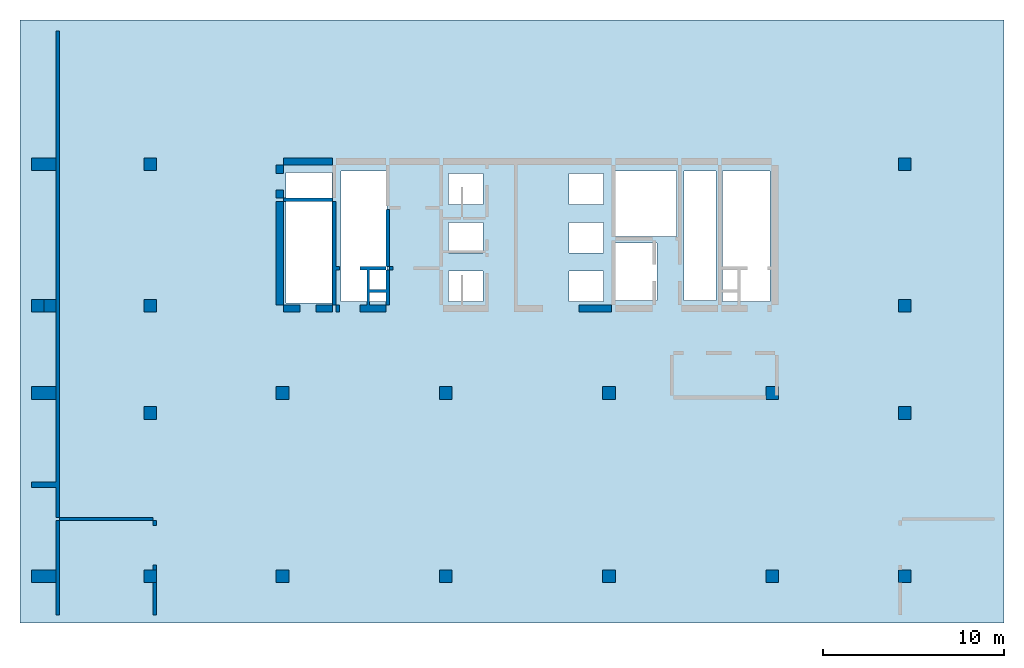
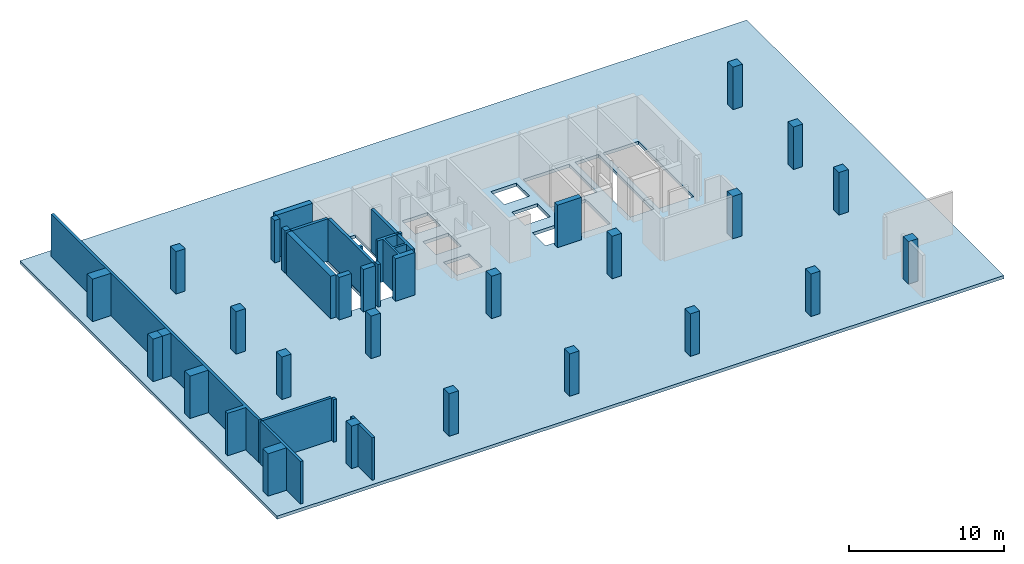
# One storey, part 1 of 2: 21 columns, 19 walls, 1 slab.
"""IFC4 building model written with IfcOpenShell, lengths in millimetres."""

from ifc_helpers import new_model, si_unit, frame, origin, place, context, project, spatial, triangles, element, save


model = new_model("IFC4")

# Units and contexts
model_context = context("Model", 3, precision=0.001, world=origin())
ifc_project = project(units=[si_unit("LENGTHUNIT", "METRE", prefix="MILLI"), si_unit("AREAUNIT", "SQUARE_METRE"), si_unit("VOLUMEUNIT", "CUBIC_METRE")], contexts=[model_context])

# Site, building, storey
site_placement = place(None, origin())
site = spatial("IfcSite", under=ifc_project, at=site_placement, Name="Site", CompositionType="ELEMENT")
building_placement = place(site_placement, origin())
building = spatial("IfcBuilding", under=site, at=building_placement, Name="INNOCEAN", CompositionType="ELEMENT")
storey_placement = place(building_placement, frame((0.0, 0.0, -23400.0)))
storey = spatial("IfcBuildingStorey", under=building, at=storey_placement, Name="B6", CompositionType="ELEMENT", Elevation=-23400.0)

# Columns
column_1_placement = place(storey_placement, origin())
element("IfcColumn", 1, at=column_1_placement, inside=storey, Name="B6_Columns_B6_001", context=model_context, shape_type="Tessellation", body=[
    triangles([(40114.8, 2023.7, 0.0), (40114.8, 2023.7, 3350.0), (40114.8, 2722.3, 0.0), (40114.8, 2722.3, 3350.0), (40813.0, 2023.7, 3350.0), (40813.0, 2023.7, 0.0), (40813.0, 2722.3, 0.0), (40813.0, 2722.3, 3350.0)], [[1, 2, 3], [3, 2, 4], [5, 6, 7], [5, 7, 8], [6, 5, 1], [1, 5, 2], [8, 7, 3], [8, 3, 4], [3, 7, 1], [1, 7, 6], [8, 4, 2], [8, 2, 5]], closed=True),
])
column_2_placement = place(storey_placement, origin())
element("IfcColumn", 2, at=column_2_placement, inside=storey, Name="B6_Columns_B6_002", context=model_context, shape_type="Tessellation", body=[
    triangles([(5843.1, 24721.0, 0.0), (5843.1, 24721.0, 3350.0), (5843.1, 25419.5, 0.0), (5843.1, 25419.5, 3350.0), (6541.2, 24721.0, 3350.0), (6541.2, 24721.0, 0.0), (6541.2, 25419.5, 0.0), (6541.2, 25419.5, 3350.0)], [[1, 2, 3], [3, 2, 4], [5, 6, 7], [5, 7, 8], [6, 5, 1], [1, 5, 2], [8, 7, 3], [8, 3, 4], [1, 3, 6], [3, 7, 6], [4, 2, 5], [8, 4, 5]], closed=True),
])
column_3_placement = place(storey_placement, origin())
element("IfcColumn", 3, at=column_3_placement, inside=storey, Name="B6_Columns_B6_003", context=model_context, shape_type="Tessellation", body=[
    triangles([(5843.1, 16922.4, 0.0), (5843.1, 16922.4, 3350.0), (5843.1, 17620.9, 0.0), (5843.1, 17620.9, 3350.0), (6541.2, 16922.4, 3350.0), (6541.2, 16922.4, 0.0), (6541.2, 17620.9, 0.0), (6541.2, 17620.9, 3350.0)], [[1, 2, 3], [3, 2, 4], [5, 6, 7], [5, 7, 8], [6, 5, 1], [1, 5, 2], [8, 7, 3], [8, 3, 4], [1, 3, 6], [3, 7, 6], [4, 2, 5], [8, 4, 5]], closed=True),
])
column_4_placement = place(storey_placement, origin())
element("IfcColumn", 4, at=column_4_placement, inside=storey, Name="B6_Columns_B6_004", context=model_context, shape_type="Tessellation", body=[
    triangles([(47413.4, 24721.0, 0.0), (47413.4, 24721.0, 3350.0), (47413.4, 25419.5, 0.0), (47413.4, 25419.5, 3350.0), (48111.6, 24721.0, 3350.0), (48111.6, 24721.0, 0.0), (48111.6, 25419.5, 0.0), (48111.6, 25419.5, 3350.0)], [[1, 2, 3], [3, 2, 4], [5, 6, 7], [5, 7, 8], [6, 5, 1], [1, 5, 2], [8, 7, 3], [8, 3, 4], [1, 3, 6], [3, 7, 6], [4, 2, 5], [8, 4, 5]], closed=True),
])
column_5_placement = place(storey_placement, origin())
element("IfcColumn", 5, at=column_5_placement, inside=storey, Name="B6_Columns_B6_005", context=model_context, shape_type="Tessellation", body=[
    triangles([(47413.4, 16922.4, 0.0), (47413.4, 16922.4, 3350.0), (47413.4, 17620.9, 0.0), (47413.4, 17620.9, 3350.0), (48111.6, 16922.4, 3350.0), (48111.6, 16922.4, 0.0), (48111.6, 17620.9, 0.0), (48111.6, 17620.9, 3350.0)], [[1, 2, 3], [3, 2, 4], [5, 6, 7], [5, 7, 8], [6, 5, 1], [1, 5, 2], [8, 7, 3], [8, 3, 4], [1, 3, 6], [3, 7, 6], [4, 2, 5], [8, 4, 5]], closed=True),
])
column_6_placement = place(storey_placement, origin())
element("IfcColumn", 6, at=column_6_placement, inside=storey, Name="B6_Columns_B6_006", context=model_context, shape_type="Tessellation", body=[
    triangles([(13129.0, 2023.7, 0.0), (13129.0, 2023.7, 3350.0), (13129.0, 2722.3, 0.0), (13129.0, 2722.3, 3350.0), (13827.2, 2023.7, 3350.0), (13827.2, 2023.7, 0.0), (13827.2, 2722.3, 0.0), (13827.2, 2722.3, 3350.0)], [[1, 2, 3], [3, 2, 4], [5, 6, 7], [5, 7, 8], [6, 5, 1], [1, 5, 2], [8, 7, 3], [8, 3, 4], [3, 7, 1], [1, 7, 6], [8, 4, 2], [8, 2, 5]], closed=True),
])
column_7_placement = place(storey_placement, origin())
element("IfcColumn", 7, at=column_7_placement, inside=storey, Name="B6_Columns_B6_007", context=model_context, shape_type="Tessellation", body=[
    triangles([(47413.4, 2023.7, 0.0), (47413.4, 2023.7, 3350.0), (47413.4, 2722.3, 0.0), (47413.4, 2722.3, 3350.0), (48111.6, 2023.7, 3350.0), (48111.6, 2023.7, 0.0), (48111.6, 2722.3, 0.0), (48111.6, 2722.3, 3350.0)], [[1, 2, 3], [3, 2, 4], [5, 6, 7], [5, 7, 8], [6, 5, 1], [1, 5, 2], [8, 7, 3], [8, 3, 4], [3, 7, 1], [1, 7, 6], [8, 4, 2], [8, 2, 5]], closed=True),
])
column_8_placement = place(storey_placement, origin())
element("IfcColumn", 8, at=column_8_placement, inside=storey, Name="B6_Columns_B6_008", context=model_context, shape_type="Tessellation", body=[
    triangles([(13129.0, 12121.3, 0.0), (13129.0, 12121.3, 3350.0), (13129.0, 12819.8, 0.0), (13129.0, 12819.8, 3350.0), (13827.2, 12121.3, 3350.0), (13827.2, 12121.3, 0.0), (13827.2, 12819.8, 0.0), (13827.2, 12819.8, 3350.0)], [[1, 2, 3], [3, 2, 4], [5, 6, 7], [5, 7, 8], [6, 5, 1], [1, 5, 2], [8, 7, 3], [8, 3, 4], [3, 7, 1], [1, 7, 6], [8, 4, 2], [8, 2, 5]], closed=True),
])
column_9_placement = place(storey_placement, origin())
element("IfcColumn", 9, at=column_9_placement, inside=storey, Name="B6_Columns_B6_009", context=model_context, shape_type="Tessellation", body=[
    triangles([(5843.1, 11016.3, 0.0), (5843.1, 11016.3, 3350.0), (5843.1, 11727.5, 0.0), (5843.1, 11727.5, 3350.0), (6541.2, 11016.3, 3350.0), (6541.2, 11016.3, 0.0), (6541.2, 11727.5, 0.0), (6541.2, 11727.5, 3350.0)], [[1, 2, 3], [3, 2, 4], [5, 6, 7], [5, 7, 8], [6, 5, 1], [1, 5, 2], [8, 7, 3], [8, 3, 4], [3, 7, 1], [1, 7, 6], [8, 4, 2], [8, 2, 5]], closed=True),
])
column_10_placement = place(storey_placement, origin())
element("IfcColumn", 10, at=column_10_placement, inside=storey, Name="B6_Columns_B6_010", context=model_context, shape_type="Tessellation", body=[
    triangles([(40114.8, 12121.3, 0.0), (40114.8, 12121.3, 3350.0), (40114.8, 12819.8, 0.0), (40114.8, 12819.8, 3350.0), (40813.0, 12121.3, 3350.0), (40813.0, 12121.3, 0.0), (40813.0, 12819.8, 0.0), (40813.0, 12819.8, 3350.0)], [[1, 2, 3], [3, 2, 4], [5, 6, 7], [5, 7, 8], [6, 5, 1], [1, 5, 2], [8, 7, 3], [8, 3, 4], [1, 3, 6], [3, 7, 6], [4, 2, 5], [8, 4, 5]], closed=True),
])
column_11_placement = place(storey_placement, origin())
element("IfcColumn", 11, at=column_11_placement, inside=storey, Name="B6_Columns_B6_011", context=model_context, shape_type="Tessellation", body=[
    triangles([(5843.1, 2023.7, 0.0), (5843.1, 2023.7, 3350.0), (5843.1, 2722.3, 0.0), (5843.1, 2722.3, 3350.0), (6541.2, 2023.7, 3350.0), (6541.2, 2023.7, 0.0), (6541.2, 2722.3, 0.0), (6541.2, 2722.3, 3350.0)], [[1, 2, 3], [3, 2, 4], [5, 6, 7], [5, 7, 8], [6, 5, 1], [1, 5, 2], [8, 7, 3], [8, 3, 4], [1, 3, 6], [3, 7, 6], [4, 2, 5], [8, 4, 5]], closed=True),
])
column_12_placement = place(storey_placement, origin())
element("IfcColumn", 12, at=column_12_placement, inside=storey, Name="B6_Columns_B6_012", context=model_context, shape_type="Tessellation", body=[
    triangles([(-363.9, 2023.7, 0.0), (-363.9, 2023.7, 3350.0), (-363.9, 2722.3, 0.0), (-363.9, 2722.3, 3350.0), (994.3, 2023.7, 3350.0), (994.3, 2023.7, 0.0), (994.3, 2722.3, 0.0), (994.3, 2722.3, 3350.0)], [[1, 2, 3], [3, 2, 4], [5, 6, 7], [5, 7, 8], [6, 5, 1], [1, 5, 2], [8, 7, 3], [8, 3, 4], [3, 7, 1], [1, 7, 6], [8, 4, 2], [8, 2, 5]], closed=True),
])
column_13_placement = place(storey_placement, origin())
element("IfcColumn", 13, at=column_13_placement, inside=storey, Name="B6_Columns_B6_013", context=model_context, shape_type="Tessellation", body=[
    triangles([(-363.9, 24721.0, 0.0), (-363.9, 24721.0, 3350.0), (-363.9, 25419.5, 0.0), (-363.9, 25419.5, 3350.0), (994.3, 24721.0, 3350.0), (994.3, 24721.0, 0.0), (994.3, 25419.5, 0.0), (994.3, 25419.5, 3350.0)], [[1, 2, 3], [3, 2, 4], [5, 6, 7], [5, 7, 8], [6, 5, 1], [1, 5, 2], [8, 7, 3], [8, 3, 4], [3, 7, 1], [1, 7, 6], [8, 4, 2], [8, 2, 5]], closed=True),
])
column_14_placement = place(storey_placement, origin())
element("IfcColumn", 14, at=column_14_placement, inside=storey, Name="B6_Columns_B6_014", context=model_context, shape_type="Tessellation", body=[
    triangles([(-363.9, 12121.3, 0.0), (-363.9, 12121.3, 3350.0), (-363.9, 12819.8, 0.0), (-363.9, 12819.8, 3350.0), (994.3, 12121.3, 3350.0), (994.3, 12121.3, 0.0), (994.3, 12819.8, 0.0), (994.3, 12819.8, 3350.0)], [[1, 2, 3], [3, 2, 4], [5, 6, 7], [5, 7, 8], [6, 5, 1], [1, 5, 2], [8, 7, 3], [8, 3, 4], [3, 7, 1], [1, 7, 6], [8, 4, 2], [8, 2, 5]], closed=True),
])
column_15_placement = place(storey_placement, origin())
element("IfcColumn", 15, at=column_15_placement, inside=storey, Name="B6_Columns_B6_015", context=model_context, shape_type="Tessellation", body=[
    triangles([(31128.0, 12121.3, 0.0), (31128.0, 12121.3, 3350.0), (31128.0, 12819.8, 0.0), (31128.0, 12819.8, 3350.0), (31826.2, 12121.3, 3350.0), (31826.2, 12121.3, 0.0), (31826.2, 12819.8, 0.0), (31826.2, 12819.8, 3350.0)], [[1, 2, 3], [3, 2, 4], [5, 6, 7], [5, 7, 8], [6, 5, 1], [1, 5, 2], [8, 7, 3], [8, 3, 4], [3, 7, 1], [1, 7, 6], [8, 4, 2], [8, 2, 5]], closed=True),
])
column_16_placement = place(storey_placement, origin())
element("IfcColumn", 16, at=column_16_placement, inside=storey, Name="B6_Columns_B6_016", context=model_context, shape_type="Tessellation", body=[
    triangles([(22128.5, 12121.3, 0.0), (22128.5, 12121.3, 3350.0), (22128.5, 12819.8, 0.0), (22128.5, 12819.8, 3350.0), (22826.7, 12121.3, 3350.0), (22826.7, 12121.3, 0.0), (22826.7, 12819.8, 0.0), (22826.7, 12819.8, 3350.0)], [[1, 2, 3], [3, 2, 4], [5, 6, 7], [5, 7, 8], [6, 5, 1], [1, 5, 2], [8, 7, 3], [8, 3, 4], [3, 7, 1], [1, 7, 6], [8, 4, 2], [8, 2, 5]], closed=True),
])
column_17_placement = place(storey_placement, origin())
element("IfcColumn", 17, at=column_17_placement, inside=storey, Name="B6_Columns_B6_017", context=model_context, shape_type="Tessellation", body=[
    triangles([(31128.0, 2023.7, 0.0), (31128.0, 2023.7, 3350.0), (31128.0, 2722.3, 0.0), (31128.0, 2722.3, 3350.0), (31826.2, 2023.7, 3350.0), (31826.2, 2023.7, 0.0), (31826.2, 2722.3, 0.0), (31826.2, 2722.3, 3350.0)], [[1, 2, 3], [3, 2, 4], [5, 6, 7], [5, 7, 8], [6, 5, 1], [1, 5, 2], [8, 7, 3], [8, 3, 4], [3, 7, 1], [1, 7, 6], [8, 4, 2], [8, 2, 5]], closed=True),
])
column_18_placement = place(storey_placement, origin())
element("IfcColumn", 18, at=column_18_placement, inside=storey, Name="B6_Columns_B6_018", context=model_context, shape_type="Tessellation", body=[
    triangles([(22128.5, 2023.7, 0.0), (22128.5, 2023.7, 3350.0), (22128.5, 2722.3, 0.0), (22128.5, 2722.3, 3350.0), (22826.7, 2023.7, 3350.0), (22826.7, 2023.7, 0.0), (22826.7, 2722.3, 0.0), (22826.7, 2722.3, 3350.0)], [[1, 2, 3], [3, 2, 4], [5, 6, 7], [5, 7, 8], [6, 5, 1], [1, 5, 2], [8, 7, 3], [8, 3, 4], [3, 7, 1], [1, 7, 6], [8, 4, 2], [8, 2, 5]], closed=True),
])
column_19_placement = place(storey_placement, origin())
element("IfcColumn", 19, at=column_19_placement, inside=storey, Name="B6_Columns_B6_019", context=model_context, shape_type="Tessellation", body=[
    triangles([(47413.4, 11016.3, 0.0), (47413.4, 11016.3, 3350.0), (47413.4, 11727.5, 0.0), (47413.4, 11727.5, 3350.0), (48111.6, 11016.3, 3350.0), (48111.6, 11016.3, 0.0), (48111.6, 11727.5, 0.0), (48111.6, 11727.5, 3350.0)], [[1, 2, 3], [3, 2, 4], [5, 6, 7], [5, 7, 8], [6, 5, 1], [1, 5, 2], [8, 7, 3], [8, 3, 4], [3, 7, 1], [1, 7, 6], [8, 4, 2], [8, 2, 5]], closed=True),
])
column_20_placement = place(storey_placement, origin())
element("IfcColumn", 20, at=column_20_placement, inside=storey, Name="B6_Columns_B6_020", context=model_context, shape_type="Tessellation", body=[
    triangles([(-363.9, 16922.4, 0.0), (-363.9, 16922.4, 3350.0), (-363.9, 17620.9, 0.0), (-363.9, 17620.9, 3350.0), (334.3, 16922.4, 3350.0), (334.3, 16922.4, 0.0), (334.3, 17620.9, 0.0), (334.3, 17620.9, 3350.0)], [[1, 2, 3], [3, 2, 4], [5, 6, 7], [5, 7, 8], [6, 5, 1], [1, 5, 2], [8, 7, 3], [8, 3, 4], [3, 7, 1], [1, 7, 6], [8, 4, 2], [8, 2, 5]], closed=True),
])
column_21_placement = place(storey_placement, origin())
element("IfcColumn", 21, at=column_21_placement, inside=storey, Name="B6_Columns_B6_021", context=model_context, shape_type="Tessellation", body=[
    triangles([(-363.9, 16922.4, 0.0), (-363.9, 16922.4, 3350.0), (-363.9, 17620.9, 0.0), (-363.9, 17620.9, 3350.0), (994.3, 16922.4, 3350.0), (994.3, 16922.4, 0.0), (994.3, 17620.9, 0.0), (994.3, 17620.9, 3350.0)], [[1, 2, 3], [3, 2, 4], [5, 6, 7], [5, 7, 8], [6, 5, 1], [1, 5, 2], [8, 7, 3], [8, 3, 4], [3, 7, 1], [1, 7, 6], [8, 4, 2], [8, 2, 5]], closed=True),
])

# Slab
slab_placement = place(storey_placement, origin())
element("IfcSlab", 22, at=slab_placement, inside=storey, Name="B6_Slab_B6_001", context=model_context, shape_type="Tessellation", body=[
    triangles([(-987.250996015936, 33023.3766233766, 0.0), (53241.0358565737, 33023.3766233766, 0.0), (-987.250996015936, 33023.3766233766, -250.0), (53241.0358565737, 33023.3766233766, -250.0), (-987.250996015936, -211.688311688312, 0.0), (-987.250996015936, -211.688311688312, -250.0), (53241.0358565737, -211.688311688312, 0.0), (53241.0358565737, -211.688311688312, -250.0), (34130.6772908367, 20745.4545454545, -250.0), (31733.0677290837, 20745.4545454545, 0.0), (31733.0677290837, 20745.4545454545, -250.0), (34130.6772908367, 20745.4545454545, 0.0), (31733.0677290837, 17570.1298701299, 0.0), (31733.0677290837, 17570.1298701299, -250.0), (34130.6772908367, 17570.1298701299, 0.0), (34130.6772908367, 17570.1298701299, -250.0), (31168.9243027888, 19193.0735930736, 0.0), (29264.9402390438, 19193.0735930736, 0.0), (29264.9402390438, 19193.0735930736, -250.0), (31168.9243027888, 19193.0735930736, -250.0), (31168.9243027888, 17499.5670995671, 0.0), (31168.9243027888, 17499.5670995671, -250.0), (29264.9402390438, 17499.5670995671, 0.0), (29264.9402390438, 17499.5670995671, -250.0), (31168.9243027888, 21874.4588744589, 0.0), (29264.9402390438, 21874.4588744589, 0.0), (29264.9402390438, 21874.4588744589, -250.0), (31168.9243027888, 21874.4588744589, -250.0), (29264.9402390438, 20180.9523809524, 0.0), (29264.9402390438, 20180.9523809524, -250.0), (31168.9243027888, 20180.9523809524, 0.0), (31168.9243027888, 20180.9523809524, -250.0), (24540.2390438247, 19193.0735930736, -250.0), (22636.2549800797, 19193.0735930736, 0.0), (22636.2549800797, 19193.0735930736, -250.0), (24540.2390438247, 19193.0735930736, 0.0), (22636.2549800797, 17499.5670995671, 0.0), (22636.2549800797, 17499.5670995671, -250.0), (24540.2390438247, 17499.5670995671, 0.0), (24540.2390438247, 17499.5670995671, -250.0), (24540.2390438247, 21874.4588744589, -250.0), (22636.2549800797, 21874.4588744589, 0.0), (22636.2549800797, 21874.4588744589, -250.0), (24540.2390438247, 21874.4588744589, 0.0), (22636.2549800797, 20180.9523809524, 0.0), (22636.2549800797, 20180.9523809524, -250.0), (24540.2390438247, 20180.9523809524, 0.0), (24540.2390438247, 20180.9523809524, -250.0), (16219.1235059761, 24626.4069264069, 0.0), (13680.4780876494, 24626.4069264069, 0.0), (13680.4780876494, 24626.4069264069, -250.0), (16219.1235059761, 24626.4069264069, -250.0), (13680.4780876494, 17429.0043290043, 0.0), (13680.4780876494, 17429.0043290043, -250.0), (16219.1235059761, 17429.0043290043, 0.0), (16219.1235059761, 17429.0043290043, -250.0), (40336.2549800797, 24696.9696969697, -250.0), (37727.0916334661, 24696.9696969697, 0.0), (37727.0916334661, 24696.9696969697, -250.0), (40336.2549800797, 24696.9696969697, 0.0), (37727.0916334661, 17499.5670995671, 0.0), (37727.0916334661, 17499.5670995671, -250.0), (40336.2549800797, 17499.5670995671, 0.0), (40336.2549800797, 17499.5670995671, -250.0), (37374.5019920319, 24696.9696969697, 0.0), (35611.5537848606, 24696.9696969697, 0.0), (35611.5537848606, 24696.9696969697, -250.0), (37374.5019920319, 24696.9696969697, -250.0), (35611.5537848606, 17570.1298701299, 0.0), (35611.5537848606, 17570.1298701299, -250.0), (37374.5019920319, 17570.1298701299, 0.0), (37374.5019920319, 17570.1298701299, -250.0), (35188.4462151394, 24696.9696969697, 0.0), (31733.0677290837, 24696.9696969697, 0.0), (31733.0677290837, 24696.9696969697, -250.0), (35188.4462151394, 24696.9696969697, -250.0), (31733.0677290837, 21098.2683982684, 0.0), (31733.0677290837, 21098.2683982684, -250.0), (35188.4462151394, 21098.2683982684, 0.0), (35188.4462151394, 21098.2683982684, -250.0), (31168.9243027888, 24555.8441558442, 0.0), (29264.9402390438, 24555.8441558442, 0.0), (29264.9402390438, 24555.8441558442, -250.0), (31168.9243027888, 24555.8441558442, -250.0), (29264.9402390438, 22862.3376623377, 0.0), (29264.9402390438, 22862.3376623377, -250.0), (31168.9243027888, 22862.3376623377, 0.0), (31168.9243027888, 22862.3376623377, -250.0), (19251.3944223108, 24696.9696969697, 0.0), (16712.7490039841, 24696.9696969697, 0.0), (16712.7490039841, 24696.9696969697, -250.0), (19251.3944223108, 24696.9696969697, -250.0), (16712.7490039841, 17499.5670995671, 0.0), (16712.7490039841, 17499.5670995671, -250.0), (19251.3944223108, 17499.5670995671, 0.0), (19251.3944223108, 17499.5670995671, -250.0), (24540.2390438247, 24555.8441558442, -250.0), (22636.2549800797, 24555.8441558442, 0.0), (22636.2549800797, 24555.8441558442, -250.0), (24540.2390438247, 24555.8441558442, 0.0), (22636.2549800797, 22862.3376623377, 0.0), (22636.2549800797, 22862.3376623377, -250.0), (24540.2390438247, 22862.3376623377, 0.0), (24540.2390438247, 22862.3376623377, -250.0)], [[1, 2, 3], [3, 2, 4], [5, 1, 6], [6, 1, 3], [2, 7, 4], [4, 7, 8], [7, 5, 8], [8, 5, 6], [9, 10, 11], [12, 10, 9], [10, 13, 14], [10, 14, 11], [15, 12, 9], [15, 9, 16], [14, 15, 16], [13, 15, 14], [17, 18, 19], [17, 19, 20], [21, 17, 20], [21, 20, 22], [23, 21, 22], [23, 22, 24], [18, 23, 24], [18, 24, 19], [25, 26, 27], [25, 27, 28], [26, 29, 30], [26, 30, 27], [31, 25, 28], [31, 28, 32], [29, 31, 32], [29, 32, 30], [33, 34, 35], [36, 34, 33], [34, 37, 38], [34, 38, 35], [39, 36, 33], [39, 33, 40], [38, 39, 40], [37, 39, 38], [41, 42, 43], [44, 42, 41], [42, 45, 46], [42, 46, 43], [47, 44, 41], [47, 41, 48], [46, 47, 48], [45, 47, 46], [49, 50, 51], [49, 51, 52], [50, 53, 54], [50, 54, 51], [55, 49, 52], [55, 52, 56], [53, 55, 56], [53, 56, 54], [57, 58, 59], [60, 58, 57], [58, 61, 62], [58, 62, 59], [63, 60, 57], [63, 57, 64], [62, 63, 64], [61, 63, 62], [65, 66, 67], [65, 67, 68], [66, 69, 70], [66, 70, 67], [71, 65, 68], [71, 68, 72], [69, 71, 72], [69, 72, 70], [73, 74, 75], [73, 75, 76], [74, 77, 78], [74, 78, 75], [79, 73, 76], [79, 76, 80], [77, 79, 80], [77, 80, 78], [81, 82, 83], [81, 83, 84], [82, 85, 86], [82, 86, 83], [87, 81, 84], [87, 84, 88], [85, 87, 88], [85, 88, 86], [89, 90, 91], [89, 91, 92], [90, 93, 94], [90, 94, 91], [95, 89, 92], [95, 92, 96], [93, 95, 96], [93, 96, 94], [97, 98, 99], [100, 98, 97], [98, 101, 102], [98, 102, 99], [103, 100, 97], [103, 97, 104], [102, 103, 104], [101, 103, 102], [63, 61, 7], [7, 2, 63], [71, 69, 61], [61, 69, 7], [69, 15, 7], [2, 60, 63], [13, 21, 15], [15, 21, 7], [79, 12, 69], [69, 12, 15], [2, 58, 60], [2, 65, 58], [13, 17, 21], [21, 23, 7], [17, 10, 31], [2, 66, 65], [12, 77, 10], [10, 77, 31], [2, 73, 66], [66, 73, 79], [31, 18, 17], [77, 25, 31], [31, 29, 18], [77, 87, 25], [23, 39, 7], [2, 74, 73], [74, 81, 87], [87, 85, 25], [25, 85, 26], [23, 36, 39], [18, 36, 23], [74, 82, 81], [29, 47, 18], [18, 47, 36], [26, 44, 29], [29, 44, 47], [47, 45, 36], [36, 45, 34], [34, 95, 37], [45, 95, 34], [85, 103, 26], [26, 103, 44], [82, 103, 85], [45, 42, 95], [103, 42, 44], [82, 100, 103], [103, 101, 42], [39, 5, 7], [37, 5, 39], [95, 5, 37], [95, 55, 5], [93, 55, 95], [55, 53, 5], [101, 89, 42], [42, 89, 95], [98, 89, 101], [90, 49, 93], [93, 49, 55], [90, 50, 49], [50, 1, 53], [89, 1, 90], [53, 1, 5], [90, 1, 50], [2, 1, 74], [74, 1, 82], [82, 1, 100], [100, 1, 98], [98, 1, 89], [13, 10, 17], [69, 66, 79], [65, 71, 58], [58, 71, 61], [77, 74, 87], [79, 77, 12], [62, 64, 8], [4, 8, 64], [70, 72, 62], [70, 62, 8], [16, 70, 8], [57, 4, 64], [22, 14, 16], [22, 16, 8], [9, 80, 70], [9, 70, 16], [59, 4, 57], [68, 4, 59], [20, 14, 22], [24, 22, 8], [11, 20, 32], [67, 4, 68], [78, 9, 11], [78, 11, 32], [76, 4, 67], [76, 67, 80], [19, 32, 20], [28, 78, 32], [30, 32, 19], [88, 78, 28], [40, 24, 8], [75, 4, 76], [84, 75, 88], [86, 88, 28], [86, 28, 27], [33, 24, 40], [33, 19, 24], [83, 75, 84], [48, 30, 19], [48, 19, 33], [41, 27, 30], [41, 30, 48], [46, 48, 33], [46, 33, 35], [96, 35, 38], [96, 46, 35], [104, 86, 27], [104, 27, 41], [104, 83, 86], [43, 46, 96], [43, 104, 41], [97, 83, 104], [102, 104, 43], [6, 40, 8], [6, 38, 40], [6, 96, 38], [56, 96, 6], [56, 94, 96], [54, 56, 6], [92, 102, 43], [92, 43, 96], [92, 99, 102], [52, 91, 94], [52, 94, 56], [51, 91, 52], [3, 51, 54], [3, 92, 91], [3, 54, 6], [3, 91, 51], [3, 4, 75], [3, 75, 83], [3, 83, 97], [3, 97, 99], [3, 99, 92], [11, 14, 20], [67, 70, 80], [72, 68, 59], [72, 59, 62], [75, 78, 88], [78, 80, 9]], closed=True),
])

# Walls
wall_1_placement = place(storey_placement, origin())
element("IfcWall", 23, at=wall_1_placement, inside=storey, Name="B6_Walls_B6_001", context=model_context, shape_type="Tessellation", body=[
    triangles([(6541.2, 2023.7, 0.0), (6338.1, 2023.7, 0.0), (6338.1, 2023.7, 3350.0), (6541.2, 2023.7, 3350.0), (6541.2, 220.2, 0.0), (6541.2, 220.2, 3350.0), (6338.1, 220.2, 0.0), (6338.1, 220.2, 3350.0)], [[1, 2, 3], [1, 3, 4], [5, 1, 4], [5, 4, 6], [7, 5, 6], [7, 6, 8], [2, 7, 8], [2, 8, 3], [2, 1, 5], [2, 5, 7], [4, 3, 6], [6, 3, 8]], closed=True),
])
wall_2_placement = place(storey_placement, origin())
element("IfcWall", 24, at=wall_2_placement, inside=storey, Name="B6_Walls_B6_002", context=model_context, shape_type="Tessellation", body=[
    triangles([(1184.7, 220.2, 0.0), (1184.7, 5427.7, 0.0), (1184.7, 5427.7, 3350.0), (1184.7, 220.2, 3350.0), (994.3, 220.2, 0.0), (994.3, 220.2, 3350.0), (994.3, 5427.7, 0.0), (994.3, 5427.7, 3350.0)], [[1, 2, 3], [1, 3, 4], [5, 1, 4], [5, 4, 6], [7, 5, 6], [7, 6, 8], [2, 7, 8], [2, 8, 3], [7, 2, 1], [7, 1, 5], [3, 8, 4], [4, 8, 6]], closed=True),
])
wall_3_placement = place(storey_placement, origin())
element("IfcWall", 25, at=wall_3_placement, inside=storey, Name="B6_Walls_B6_003", context=model_context, shape_type="Tessellation", body=[
    triangles([(6541.2, 2722.3, 0.0), (6541.2, 2976.3, 0.0), (6541.2, 2976.3, 3350.0), (6541.2, 2722.3, 3350.0), (6338.1, 2722.3, 0.0), (6338.1, 2722.3, 3350.0), (6338.1, 2976.3, 0.0), (6338.1, 2976.3, 3350.0)], [[1, 2, 3], [1, 3, 4], [5, 1, 4], [5, 4, 6], [7, 5, 6], [7, 6, 8], [2, 7, 8], [2, 8, 3], [2, 1, 5], [7, 2, 5], [4, 3, 6], [3, 8, 6]], closed=True),
])
wall_4_placement = place(storey_placement, origin())
element("IfcWall", 26, at=wall_4_placement, inside=storey, Name="B6_Walls_B6_004", context=model_context, shape_type="Tessellation", body=[
    triangles([(6338.1, 5173.7, 0.0), (6541.2, 5173.7, 0.0), (6541.2, 5173.7, 3350.0), (6338.1, 5173.7, 3350.0), (6338.1, 5427.7, 0.0), (6338.1, 5427.7, 3350.0), (6541.2, 5427.7, 0.0), (6541.2, 5427.7, 3350.0)], [[1, 2, 3], [1, 3, 4], [5, 1, 4], [5, 4, 6], [7, 5, 6], [7, 6, 8], [2, 7, 8], [2, 8, 3], [7, 2, 1], [5, 7, 1], [3, 8, 4], [8, 6, 4]], closed=True),
])
wall_5_placement = place(storey_placement, origin())
element("IfcWall", 27, at=wall_5_placement, inside=storey, Name="B6_Walls_B6_005", context=model_context, shape_type="Tessellation", body=[
    triangles([(6338.1, 5427.7, 0.0), (6338.1, 5618.2, 0.0), (6338.1, 5618.2, 3350.0), (6338.1, 5427.7, 3350.0), (1184.7, 5427.7, 0.0), (1184.7, 5427.7, 3350.0), (1184.7, 5618.2, 0.0), (1184.7, 5618.2, 3350.0)], [[1, 2, 3], [1, 3, 4], [5, 1, 4], [5, 4, 6], [7, 5, 6], [7, 6, 8], [2, 7, 8], [2, 8, 3], [7, 2, 1], [7, 1, 5], [3, 8, 4], [4, 8, 6]], closed=True),
])
wall_6_placement = place(storey_placement, origin())
element("IfcWall", 28, at=wall_6_placement, inside=storey, Name="B6_Walls_B6_006", context=model_context, shape_type="Tessellation", body=[
    triangles([(-365.0, 7575.0, 0.0), (-365.0, 7270.0, 0.0), (-365.0, 7270.0, 3350.0), (-365.0, 7575.0, 3350.0), (994.3, 7575.0, 0.0), (994.3, 7575.0, 3350.0), (994.3, 32417.9, 0.0), (994.3, 32417.9, 3350.0), (1184.7, 32417.9, 0.0), (1184.7, 32417.9, 3350.0), (1184.7, 5618.2, 0.0), (1184.7, 5618.2, 3350.0), (994.3, 5618.2, 0.0), (994.3, 5618.2, 3350.0), (994.3, 7269.4, 0.0), (994.3, 7269.4, 3350.0), (-363.9, 7269.4, 0.0), (-363.9, 7269.4, 3350.0), (-363.9, 7270.0, 0.0), (-363.9, 7270.0, 3350.0)], [[1, 2, 3], [1, 3, 4], [5, 1, 4], [5, 4, 6], [7, 5, 6], [7, 6, 8], [9, 7, 8], [9, 8, 10], [11, 9, 10], [11, 10, 12], [13, 11, 12], [13, 12, 14], [15, 13, 14], [15, 14, 16], [17, 15, 16], [17, 16, 18], [19, 17, 18], [19, 18, 20], [2, 19, 20], [2, 20, 3], [15, 11, 13], [5, 11, 15], [19, 15, 17], [19, 5, 15], [1, 19, 2], [1, 5, 19], [7, 9, 5], [9, 11, 5], [12, 16, 14], [12, 6, 16], [16, 20, 18], [6, 20, 16], [20, 4, 3], [6, 4, 20], [10, 8, 6], [12, 10, 6]], closed=True),
])
wall_7_placement = place(storey_placement, origin())
element("IfcWall", 29, at=wall_7_placement, inside=storey, Name="B6_Walls_B6_007", context=model_context, shape_type="Tessellation", body=[
    triangles([(14436.4, 16922.4, 0.0), (14436.4, 17316.1, 0.0), (14436.4, 17316.1, 3350.0), (14436.4, 16922.4, 3350.0), (13535.2, 16922.4, 0.0), (13535.2, 16922.4, 3350.0), (13535.2, 17316.1, 0.0), (13535.2, 17316.1, 3350.0)], [[1, 2, 3], [1, 3, 4], [5, 1, 4], [5, 4, 6], [7, 5, 6], [7, 6, 8], [2, 7, 8], [2, 8, 3], [7, 2, 1], [7, 1, 5], [3, 8, 4], [4, 8, 6]], closed=True),
])
wall_8_placement = place(storey_placement, origin())
element("IfcWall", 30, at=wall_8_placement, inside=storey, Name="B6_Walls_B6_008", context=model_context, shape_type="Tessellation", body=[
    triangles([(16226.2, 16922.4, 0.0), (16226.2, 17316.1, 0.0), (16226.2, 17316.1, 3350.0), (16226.2, 16922.4, 3350.0), (15337.6, 16922.4, 0.0), (15337.6, 16922.4, 3350.0), (15337.6, 17316.1, 0.0), (15337.6, 17316.1, 3350.0)], [[1, 2, 3], [1, 3, 4], [5, 1, 4], [5, 4, 6], [7, 5, 6], [7, 6, 8], [2, 7, 8], [2, 8, 3], [7, 2, 1], [7, 1, 5], [3, 8, 4], [4, 8, 6]], closed=True),
])
wall_9_placement = place(storey_placement, origin())
element("IfcWall", 31, at=wall_9_placement, inside=storey, Name="B6_Walls_B6_009", context=model_context, shape_type="Tessellation", body=[
    triangles([(16632.4, 16922.4, 0.0), (16632.4, 17316.1, 0.0), (16632.4, 17316.1, 3350.0), (16632.4, 16922.4, 3350.0), (16429.3, 16922.4, 0.0), (16429.3, 16922.4, 3350.0), (16429.3, 17316.1, 0.0), (16429.3, 17316.1, 3350.0)], [[1, 2, 3], [1, 3, 4], [5, 1, 4], [5, 4, 6], [7, 5, 6], [7, 6, 8], [2, 7, 8], [2, 8, 3], [7, 2, 1], [7, 1, 5], [3, 8, 4], [4, 8, 6]], closed=True),
])
wall_10_placement = place(storey_placement, origin())
element("IfcWall", 32, at=wall_10_placement, inside=storey, Name="B6_Walls_B6_010", context=model_context, shape_type="Tessellation", body=[
    triangles([(18130.2, 19246.7, 0.0), (18130.2, 19245.0, 0.0), (18130.2, 19245.0, 3350.0), (18130.2, 19246.7, 3350.0), (18130.0, 19245.0, 0.0), (18130.0, 19245.0, 3350.0), (18130.0, 17316.1, 0.0), (18130.0, 17316.1, 3350.0), (17749.4, 17316.1, 0.0), (17749.4, 17316.1, 3350.0), (17749.4, 16922.4, 0.0), (17749.4, 16922.4, 3350.0), (19183.7, 16922.4, 0.0), (19183.7, 16922.4, 3350.0), (19183.7, 17316.1, 0.0), (19183.7, 17316.1, 3350.0), (19374.1, 17316.1, 0.0), (19374.1, 17316.1, 3350.0), (19374.1, 19246.7, 0.0), (19374.1, 19246.7, 3350.0), (19183.7, 19246.7, 0.0), (19183.7, 19246.7, 3350.0), (19183.7, 19449.9, 0.0), (19183.7, 19449.9, 3350.0), (17749.4, 19449.9, 0.0), (17749.4, 19449.9, 3350.0), (17749.4, 19246.7, 0.0), (17749.4, 19246.7, 3350.0), (18282.5, 17316.1, 0.0), (18282.5, 17316.1, 3350.0), (18282.5, 18014.7, 0.0), (18282.5, 18014.7, 3350.0), (19183.7, 18014.7, 0.0), (19183.7, 18014.7, 3350.0), (19183.7, 18167.1, 0.0), (19183.7, 18167.1, 3350.0), (18282.5, 18167.1, 0.0), (18282.5, 18167.1, 3350.0), (18282.5, 19246.7, 0.0), (18282.5, 19246.7, 3350.0)], [[1, 2, 3], [1, 3, 4], [2, 5, 6], [2, 6, 3], [5, 7, 8], [5, 8, 6], [7, 9, 10], [7, 10, 8], [9, 11, 12], [9, 12, 10], [11, 13, 14], [11, 14, 12], [13, 15, 16], [13, 16, 14], [15, 17, 18], [15, 18, 16], [19, 20, 18], [17, 19, 18], [19, 21, 22], [19, 22, 20], [21, 23, 24], [21, 24, 22], [23, 25, 26], [23, 26, 24], [25, 27, 28], [25, 28, 26], [27, 1, 4], [27, 4, 28], [15, 29, 30], [15, 30, 16], [29, 31, 32], [29, 32, 30], [31, 33, 34], [31, 34, 32], [33, 15, 16], [33, 16, 34], [21, 35, 36], [21, 36, 22], [35, 37, 38], [35, 38, 36], [37, 39, 40], [37, 40, 38], [39, 21, 22], [39, 22, 40], [33, 17, 15], [35, 17, 33], [29, 15, 13], [11, 29, 13], [7, 29, 11], [9, 7, 11], [31, 35, 33], [31, 29, 7], [19, 17, 35], [37, 35, 31], [21, 19, 35], [39, 23, 21], [2, 39, 37], [5, 2, 37], [1, 39, 2], [25, 1, 27], [25, 23, 39], [25, 39, 1], [7, 5, 37], [7, 37, 31], [18, 34, 16], [18, 36, 34], [16, 30, 14], [30, 12, 14], [30, 8, 12], [8, 10, 12], [36, 32, 34], [30, 32, 8], [18, 20, 36], [36, 38, 32], [20, 22, 36], [24, 40, 22], [40, 3, 38], [3, 6, 38], [40, 4, 3], [4, 26, 28], [24, 26, 40], [40, 26, 4], [6, 8, 38], [38, 8, 32]], closed=True),
])
wall_11_placement = place(storey_placement, origin())
element("IfcWall", 33, at=wall_11_placement, inside=storey, Name="B6_Walls_B6_011", context=model_context, shape_type="Tessellation", body=[
    triangles([(16632.4, 19449.9, 0.0), (16429.3, 19449.9, 0.0), (16429.3, 19449.9, 3350.0), (16632.4, 19449.9, 3350.0), (16632.4, 19246.7, 0.0), (16632.4, 19246.7, 3350.0), (16429.3, 19246.7, 0.0), (16429.3, 19246.7, 3350.0), (16429.3, 17316.1, 3350.0), (16429.3, 17316.1, 0.0), (16226.2, 17316.1, 0.0), (16226.2, 17316.1, 3350.0), (16226.2, 19246.7, 3350.0), (16226.2, 19246.7, 0.0), (16226.2, 19449.9, 0.0), (16226.2, 19449.9, 3350.0), (16226.2, 23019.0, 0.0), (16226.2, 23019.0, 3350.0), (16429.3, 23019.0, 0.0), (16429.3, 23019.0, 3350.0)], [[1, 2, 3], [1, 3, 4], [5, 1, 4], [5, 4, 6], [7, 5, 6], [7, 6, 8], [7, 8, 9], [10, 7, 9], [11, 10, 9], [11, 9, 12], [11, 12, 13], [14, 11, 13], [15, 14, 13], [15, 13, 16], [17, 15, 16], [17, 16, 18], [19, 17, 18], [19, 18, 20], [2, 19, 20], [2, 20, 3], [14, 7, 10], [14, 10, 11], [2, 1, 5], [2, 5, 7], [15, 2, 7], [15, 7, 14], [19, 2, 15], [17, 19, 15], [8, 13, 9], [9, 13, 12], [4, 3, 6], [6, 3, 8], [3, 16, 8], [8, 16, 13], [3, 20, 16], [20, 18, 16]], closed=True),
])
wall_12_placement = place(storey_placement, origin())
element("IfcWall", 34, at=wall_12_placement, inside=storey, Name="B6_Walls_B6_012", context=model_context, shape_type="Tessellation", body=[
    triangles([(13129.0, 23019.0, 0.0), (13129.0, 17316.1, 0.0), (13129.0, 17316.1, 3350.0), (13129.0, 23019.0, 3350.0), (13535.2, 23019.0, 0.0), (13535.2, 23019.0, 3350.0), (13535.2, 17316.1, 0.0), (13535.2, 17316.1, 3350.0)], [[1, 2, 3], [1, 3, 4], [5, 1, 4], [5, 4, 6], [7, 5, 6], [7, 6, 8], [2, 7, 8], [2, 8, 3], [1, 5, 7], [1, 7, 2], [6, 4, 8], [8, 4, 3]], closed=True),
])
wall_13_placement = place(storey_placement, origin())
element("IfcWall", 35, at=wall_13_placement, inside=storey, Name="B6_Walls_B6_013", context=model_context, shape_type="Tessellation", body=[
    triangles([(16226.2, 23019.0, 0.0), (16226.2, 23222.2, 0.0), (16226.2, 23222.2, 3350.0), (16226.2, 23019.0, 3350.0), (13535.2, 23019.0, 0.0), (13535.2, 23019.0, 3350.0), (13535.2, 23222.2, 0.0), (13535.2, 23222.2, 3350.0)], [[1, 2, 3], [1, 3, 4], [5, 1, 4], [5, 4, 6], [7, 5, 6], [7, 6, 8], [2, 7, 8], [2, 8, 3], [7, 2, 1], [7, 1, 5], [3, 8, 4], [4, 8, 6]], closed=True),
])
wall_14_placement = place(storey_placement, origin())
element("IfcWall", 36, at=wall_14_placement, inside=storey, Name="B6_Walls_B6_014", context=model_context, shape_type="Tessellation", body=[
    triangles([(13535.2, 23222.2, 0.0), (13535.2, 23666.8, 0.0), (13535.2, 23666.8, 3350.0), (13535.2, 23222.2, 3350.0), (13129.0, 23222.2, 0.0), (13129.0, 23222.2, 3350.0), (13129.0, 23666.8, 0.0), (13129.0, 23666.8, 3350.0)], [[1, 2, 3], [1, 3, 4], [5, 1, 4], [5, 4, 6], [7, 5, 6], [7, 6, 8], [2, 7, 8], [2, 8, 3], [7, 2, 1], [7, 1, 5], [3, 8, 4], [4, 8, 6]], closed=True),
])
wall_15_placement = place(storey_placement, origin())
element("IfcWall", 37, at=wall_15_placement, inside=storey, Name="B6_Walls_B6_016", context=model_context, shape_type="Tessellation", body=[
    triangles([(13535.2, 25025.8, 0.0), (13129.0, 25025.8, 0.0), (13129.0, 25025.8, 3350.0), (13535.2, 25025.8, 3350.0), (13535.2, 24568.5, 0.0), (13535.2, 24568.5, 3350.0), (13129.0, 24568.5, 0.0), (13129.0, 24568.5, 3350.0)], [[1, 2, 3], [1, 3, 4], [5, 1, 4], [5, 4, 6], [7, 5, 6], [7, 6, 8], [2, 7, 8], [2, 8, 3], [2, 1, 5], [2, 5, 7], [4, 3, 6], [6, 3, 8]], closed=True),
])
wall_16_placement = place(storey_placement, origin())
element("IfcWall", 38, at=wall_16_placement, inside=storey, Name="B6_Walls_B6_017", context=model_context, shape_type="Tessellation", body=[
    triangles([(13535.2, 25025.8, 0.0), (16226.2, 25025.8, 0.0), (16226.2, 25025.8, 3350.0), (13535.2, 25025.8, 3350.0), (13535.2, 25419.5, 0.0), (13535.2, 25419.5, 3350.0), (16226.2, 25419.5, 0.0), (16226.2, 25419.5, 3350.0)], [[1, 2, 3], [1, 3, 4], [5, 1, 4], [5, 4, 6], [7, 5, 6], [7, 6, 8], [2, 7, 8], [2, 8, 3], [1, 7, 2], [5, 7, 1], [8, 4, 3], [8, 6, 4]], closed=True),
])
wall_17_placement = place(storey_placement, origin())
element("IfcWall", 39, at=wall_17_placement, inside=storey, Name="B6_Walls_B6_021", context=model_context, shape_type="Tessellation", body=[
    triangles([(19577.2, 19246.7, 0.0), (19577.2, 19449.9, 0.0), (19577.2, 19449.9, 3350.0), (19577.2, 19246.7, 3350.0), (19374.1, 19246.7, 0.0), (19374.1, 19246.7, 3350.0), (19374.1, 19449.9, 0.0), (19374.1, 19449.9, 3350.0)], [[1, 2, 3], [1, 3, 4], [5, 1, 4], [5, 4, 6], [7, 5, 6], [7, 6, 8], [2, 7, 8], [2, 8, 3], [7, 2, 1], [7, 1, 5], [3, 8, 4], [4, 8, 6]], closed=True),
])
wall_18_placement = place(storey_placement, origin())
element("IfcWall", 40, at=wall_18_placement, inside=storey, Name="B6_Walls_B6_026", context=model_context, shape_type="Tessellation", body=[
    triangles([(19374.1, 22574.4, 0.0), (19183.7, 22574.4, 0.0), (19183.7, 22574.4, 3350.0), (19374.1, 22574.4, 3350.0), (19374.1, 19449.9, 0.0), (19374.1, 19449.9, 3350.0), (19183.7, 19449.9, 0.0), (19183.7, 19449.9, 3350.0)], [[1, 2, 3], [1, 3, 4], [5, 1, 4], [5, 4, 6], [7, 5, 6], [7, 6, 8], [2, 7, 8], [2, 8, 3], [1, 5, 7], [2, 1, 7], [6, 4, 8], [4, 3, 8]], closed=True),
])
wall_19_placement = place(storey_placement, origin())
element("IfcWall", 41, at=wall_19_placement, inside=storey, Name="B6_Walls_B6_038", context=model_context, shape_type="Tessellation", body=[
    triangles([(31623.1, 16922.4, 0.0), (31623.1, 17316.1, 0.0), (31623.1, 17316.1, 3350.0), (31623.1, 16922.4, 3350.0), (29820.6, 16922.4, 3350.0), (29820.6, 16922.4, 0.0), (29820.6, 17316.1, 0.0), (29820.6, 17316.1, 3350.0)], [[1, 2, 3], [1, 3, 4], [1, 4, 5], [6, 1, 5], [7, 6, 5], [7, 5, 8], [7, 8, 3], [2, 7, 3], [6, 2, 1], [7, 2, 6], [3, 5, 4], [3, 8, 5]], closed=True),
])

save(model, "model.ifc")
